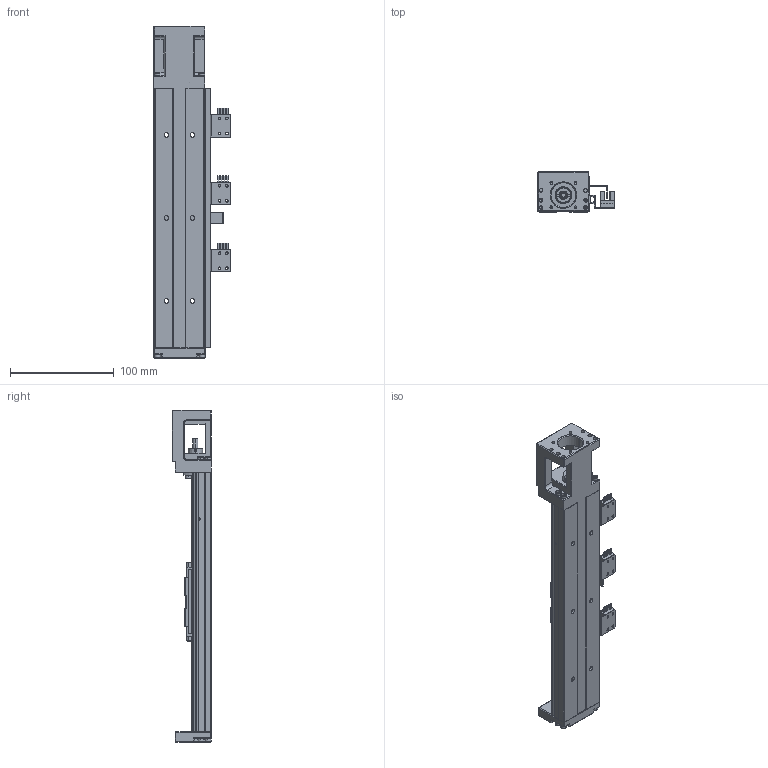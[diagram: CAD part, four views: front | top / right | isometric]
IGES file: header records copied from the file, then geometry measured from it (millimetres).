
Start section: SolidWorks IGES file using analytic representation for surfaces
Global section: file name: C:\Users\Administrator\Desktop\1231\GSX50C-MF-250L-ﾎﾞｻｬﾌｨ.IGS; native system: SolidWorks 2013; preprocessor: SolidWorks 2013; author: ｹｾﾇｿ,; organization: 11; date: 170412.110834; units: millimetre
Bounding box: 74.3 x 38.5 x 320 mm (x, y, z)
Surface area: 113045.3 mm2 (no closed solid volume)
Topology: 0 solids, 0 shells, 1297 faces, 14530 edges, 14420 vertices
Faces by surface type: bspline 775, revolution 522
